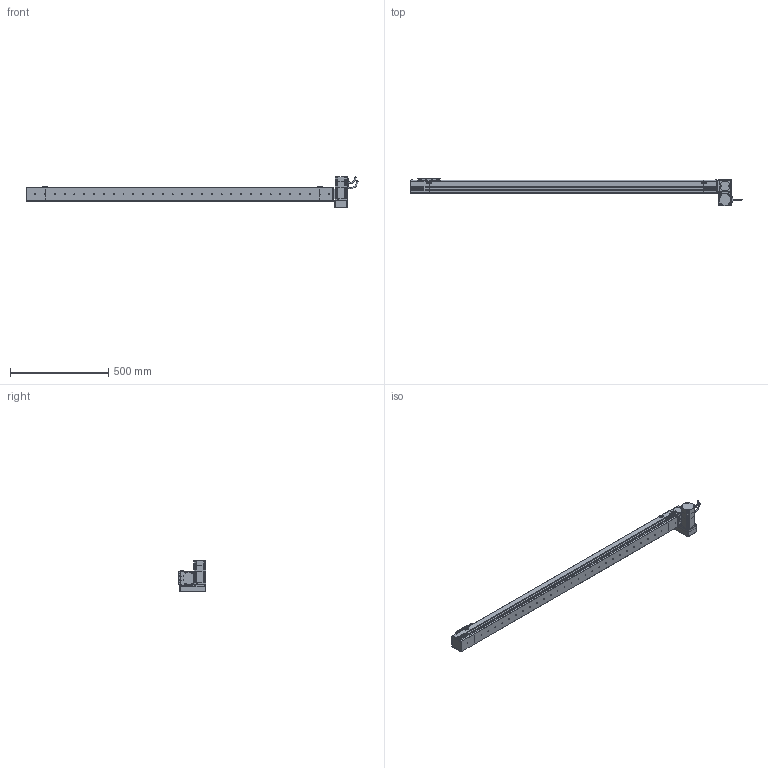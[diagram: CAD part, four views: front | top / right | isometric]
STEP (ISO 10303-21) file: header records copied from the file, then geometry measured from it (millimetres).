
FILE_DESCRIPTION (( 'STEP AP214' ), '1' );
FILE_NAME ('S07 CBN RU S1400.STEP', '2010-06-29T10:48:51', ( 'Conseil Régional Haute-Normandie' ), ( 'Conseil Régional Haute-Normandie' ), 'SwSTEP 2.0', 'SolidWorks 2010', '' );
FILE_SCHEMA (( 'AUTOMOTIVE_DESIGN' ));
Length unit declared in the file: millimetre
Products named in the file (31): Rondelle de Serrage RU_Default; Couvercle RU_Default; plaque de serrage RU_Default; Support Moteur RU_Default; Plaque de bout RU_Default; vis M5 L15_Default; plaque de serrage Tail_Default; Plaque de bout Tail_Default; Couvercle Tail_Default; support chariot_Default; chariot_Default; Chariot S07_Default; Corp Tail_Default; vis M5 L8_Default; Tail S07 Tail_Default; Couvercle S07 S1400_Default; Corp S07 S1400_Default; VisM3_Default; 60BLDC90A-640_Default; Cache Support Moteur RU_Default; P1_Default; Conecteur2 60BLDC_Default; Conecteur 60BLDC_Default; P2 90A_Default; Axe 60BLDC_Default; P4_Default; P3 90A_Default; Corp RU_Default; Head RU_Default; S07 CBN RU S1400
Assembly tree (71 placements, depth 4):
  S07 CBN RU S1400
    Head RU_Default
      vis M5 L15_Default  x16
      plaque de serrage RU_Default
      Rondelle de Serrage RU_Default  x3
      Plaque de bout RU_Default
      60BLDC90A-640_Default
        P1_Default
        VisM3_Default  x12
        P3 90A_Default
        Conecteur 60BLDC_Default
        Conecteur2 60BLDC_Default
        Axe 60BLDC_Default
        P4_Default
        P2 90A_Default
      Cache Support Moteur RU_Default
      Support Moteur RU_Default
      Couvercle RU_Default
      Corp RU_Default
    Corp S07 S1400_Default
      Corp S07 S1400_Default
      Couvercle S07 S1400_Default
    Chariot S07_Default
      vis M5 L8_Default  x8
      support chariot_Default
      chariot_Default
    Tail S07 Tail_Default
      vis M5 L15_Default  x6
      Plaque de bout Tail_Default
      Corp Tail_Default
      plaque de serrage Tail_Default
      Couvercle Tail_Default
Bounding box: 1693.2 x 142 x 162 mm (x, y, z)
Volume: 7968310 mm3; surface area: 930213.7 mm2
Topology: 108 solids, 108 shells, 3934 faces, 9674 edges, 6228 vertices
Faces by surface type: plane 2264, bspline 756, cylinder 703, torus 112, cone 95, sphere 4
Entity records: 154473 total; most frequent: CARTESIAN_POINT 79773, ORIENTED_EDGE 14868, DIRECTION 11187, EDGE_CURVE 7434, VERTEX_POINT 4913, LINE 4801, VECTOR 4801, EDGE_LOOP 3205
